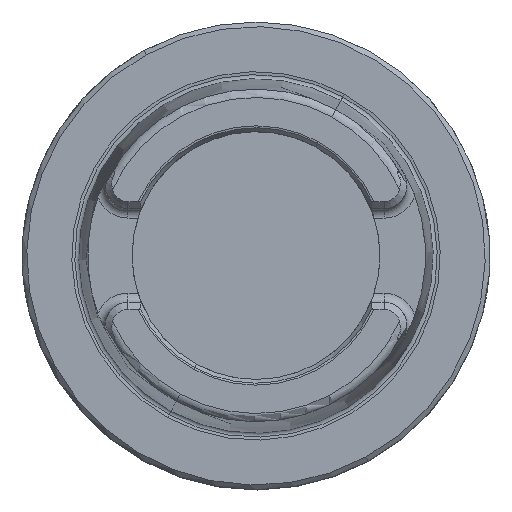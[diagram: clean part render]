
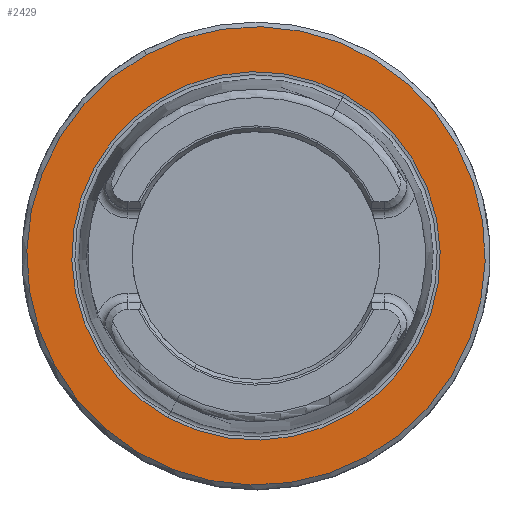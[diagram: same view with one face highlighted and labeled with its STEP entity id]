
A CAD part, top view. The second image highlights one B-rep face of the part: STEP entity #2429.
In plain terms, the highlighted planar face has unit normal (0, 0, 1).
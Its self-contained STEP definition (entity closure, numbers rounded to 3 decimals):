
#2371=AXIS2_PLACEMENT_3D('Circle Axis2P3D',#2369,#2370,$) ;
#2391=AXIS2_PLACEMENT_3D('Circle Axis2P3D',#2389,#2390,$) ;
#2405=AXIS2_PLACEMENT_3D('Plane Axis2P3D',#2402,#2403,#2404) ;
#2413=AXIS2_PLACEMENT_3D('Circle Axis2P3D',#2411,#2412,$) ;
#2422=AXIS2_PLACEMENT_3D('Circle Axis2P3D',#2420,#2421,$) ;
#2366=CARTESIAN_POINT('Vertex',(23.492,-43.002,0.)) ;
#2369=CARTESIAN_POINT('Axis2P3D Location',(0.,0.,0.)) ;
#2373=CARTESIAN_POINT('Vertex',(-23.492,43.002,0.)) ;
#2389=CARTESIAN_POINT('Axis2P3D Location',(0.,0.,0.)) ;
#2402=CARTESIAN_POINT('Axis2P3D Location',(0.,-38.285,0.)) ;
#2411=CARTESIAN_POINT('Axis2P3D Location',(0.,0.,0.)) ;
#2415=CARTESIAN_POINT('Vertex',(18.88,34.56,0.)) ;
#2417=CARTESIAN_POINT('Vertex',(-18.88,-34.56,0.)) ;
#2420=CARTESIAN_POINT('Axis2P3D Location',(0.,0.,0.)) ;
#2370=DIRECTION('Axis2P3D Direction',(0.,0.,-1.)) ;
#2390=DIRECTION('Axis2P3D Direction',(0.,0.,-1.)) ;
#2403=DIRECTION('Axis2P3D Direction',(0.,0.,-1.)) ;
#2404=DIRECTION('Axis2P3D XDirection',(-1.,0.,0.)) ;
#2412=DIRECTION('Axis2P3D Direction',(0.,0.,-1.)) ;
#2421=DIRECTION('Axis2P3D Direction',(0.,0.,-1.)) ;
#2408=ORIENTED_EDGE('',*,*,#2375,.F.) ;
#2409=ORIENTED_EDGE('',*,*,#2393,.F.) ;
#2426=ORIENTED_EDGE('',*,*,#2419,.T.) ;
#2427=ORIENTED_EDGE('',*,*,#2424,.T.) ;
#2428=FACE_BOUND('',#2425,.T.) ;
#2429=ADVANCED_FACE('NO_CUT',(#2410,#2428),#2406,.F.) ;
#2372=CIRCLE('generated circle',#2371,49.) ;
#2392=CIRCLE('generated circle',#2391,49.) ;
#2414=CIRCLE('generated circle',#2413,39.381) ;
#2423=CIRCLE('generated circle',#2422,39.381) ;
#2375=EDGE_CURVE('',#2367,#2374,#2372,.T.) ;
#2393=EDGE_CURVE('',#2374,#2367,#2392,.T.) ;
#2419=EDGE_CURVE('',#2416,#2418,#2414,.T.) ;
#2424=EDGE_CURVE('',#2418,#2416,#2423,.T.) ;
#2407=EDGE_LOOP('',(#2408,#2409)) ;
#2425=EDGE_LOOP('',(#2426,#2427)) ;
#2410=FACE_OUTER_BOUND('',#2407,.T.) ;
#2406=PLANE('',#2405) ;
#2367=VERTEX_POINT('',#2366) ;
#2374=VERTEX_POINT('',#2373) ;
#2416=VERTEX_POINT('',#2415) ;
#2418=VERTEX_POINT('',#2417) ;
